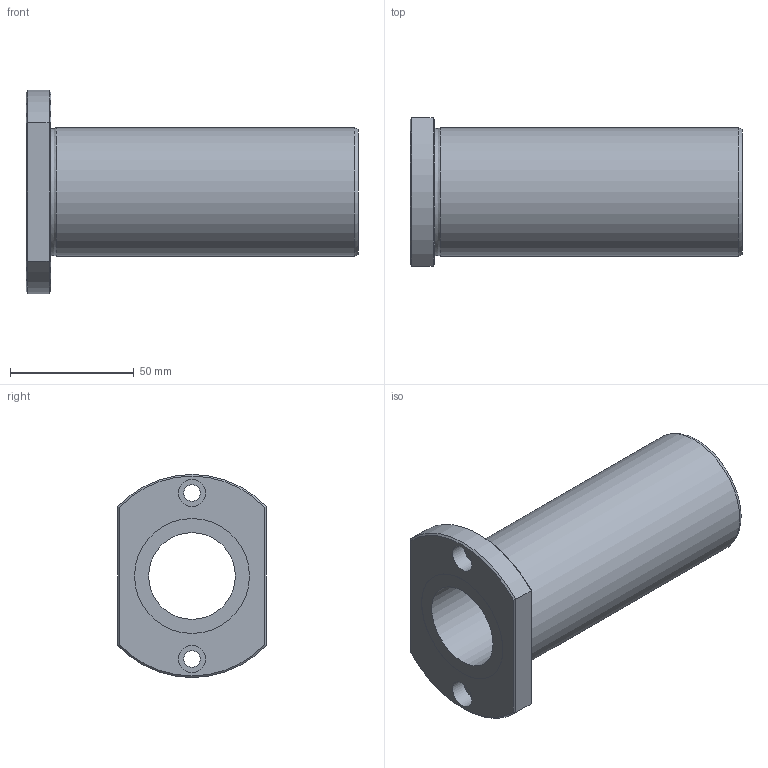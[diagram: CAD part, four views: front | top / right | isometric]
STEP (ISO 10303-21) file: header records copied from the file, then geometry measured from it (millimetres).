
FILE_DESCRIPTION((''),'2;1');
FILE_NAME('D:\製品 (図面)\カタログ用3D\リニアベアリング関連\STEP形式\LFDT\LFDT35.stp','2010-06-03T09:47:35',('Tsuchiya'),(''),'Autodesk Inventor 10','Autodesk Inventor 10','');
FILE_SCHEMA(('AUTOMOTIVE_DESIGN { 1 0 10303 214 1 1 1 1 }'));
Length unit declared in the file: millimetre
Products named in the file (1): LFDT35
Bounding box: 134 x 60 x 82 mm (x, y, z)
Volume: 176828 mm3; surface area: 44638 mm2
Topology: 1 solids, 1 shells, 29 faces, 56 edges, 34 vertices
Faces by surface type: plane 13, cylinder 10, cone 4, torus 1, bspline 1
Full cylindrical faces by diameter (mm): 6.6 x2, 11 x2, 35 x1, 46.4 x2, 52 x1
Entity records: 787 total; most frequent: CARTESIAN_POINT 196, DIRECTION 122, ORIENTED_EDGE 92, AXIS2_PLACEMENT_3D 55, EDGE_LOOP 50, EDGE_CURVE 46, VERTEX_POINT 34, FACE_OUTER_BOUND 29
